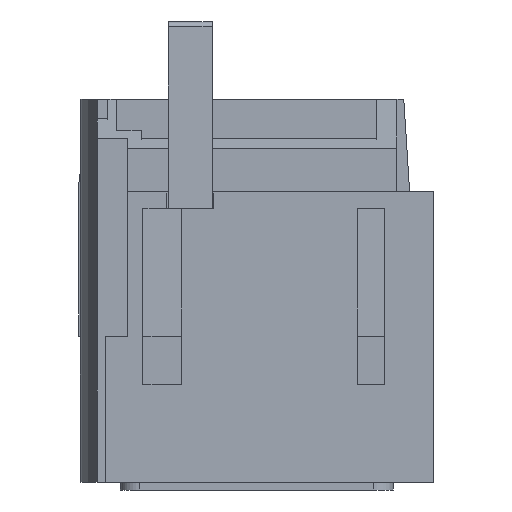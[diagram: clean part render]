
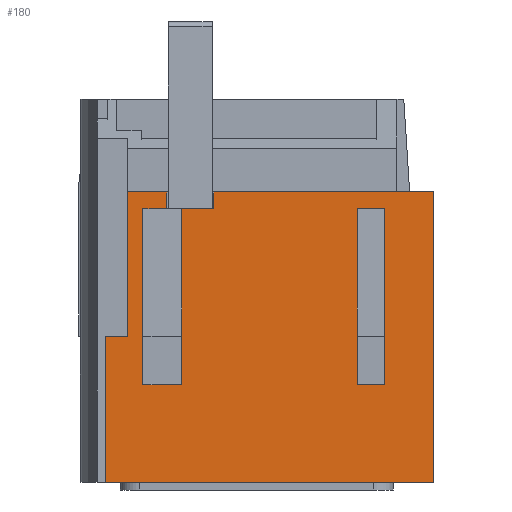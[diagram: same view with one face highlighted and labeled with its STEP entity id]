
A CAD part, front view. The second image highlights one B-rep face of the part: STEP entity #180.
In plain terms, the highlighted planar face has unit normal (0, -1, 0).
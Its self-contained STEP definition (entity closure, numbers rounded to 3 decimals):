
#84=FACE_BOUND('',#813,.T.);
#85=FACE_BOUND('',#814,.T.);
#180=ADVANCED_FACE('',(#84,#85),#405,.F.);
#405=PLANE('',#4402);
#813=EDGE_LOOP('',(#1315,#1316,#1317,#1318));
#814=EDGE_LOOP('',(#1319,#1320,#1321,#1322,#1323,#1324,#1325,#1326,#1327,
#1328,#1329,#1330,#1331,#1332));
#1315=ORIENTED_EDGE('',*,*,#2911,.F.);
#1316=ORIENTED_EDGE('',*,*,#2912,.T.);
#1317=ORIENTED_EDGE('',*,*,#2913,.F.);
#1318=ORIENTED_EDGE('',*,*,#2914,.F.);
#1319=ORIENTED_EDGE('',*,*,#2915,.F.);
#1320=ORIENTED_EDGE('',*,*,#2916,.F.);
#1321=ORIENTED_EDGE('',*,*,#2917,.F.);
#1322=ORIENTED_EDGE('',*,*,#2836,.T.);
#1323=ORIENTED_EDGE('',*,*,#2918,.T.);
#1324=ORIENTED_EDGE('',*,*,#2919,.T.);
#1325=ORIENTED_EDGE('',*,*,#2920,.T.);
#1326=ORIENTED_EDGE('',*,*,#2921,.F.);
#1327=ORIENTED_EDGE('',*,*,#2922,.F.);
#1328=ORIENTED_EDGE('',*,*,#2923,.F.);
#1329=ORIENTED_EDGE('',*,*,#2924,.F.);
#1330=ORIENTED_EDGE('',*,*,#2925,.T.);
#1331=ORIENTED_EDGE('',*,*,#2926,.T.);
#1332=ORIENTED_EDGE('',*,*,#2927,.F.);
#2418=VERTEX_POINT('',#5967);
#2422=VERTEX_POINT('',#5975);
#2471=VERTEX_POINT('',#6123);
#2472=VERTEX_POINT('',#6124);
#2473=VERTEX_POINT('',#6126);
#2474=VERTEX_POINT('',#6128);
#2475=VERTEX_POINT('',#6131);
#2476=VERTEX_POINT('',#6132);
#2477=VERTEX_POINT('',#6134);
#2478=VERTEX_POINT('',#6137);
#2479=VERTEX_POINT('',#6139);
#2480=VERTEX_POINT('',#6141);
#2481=VERTEX_POINT('',#6143);
#2482=VERTEX_POINT('',#6145);
#2483=VERTEX_POINT('',#6147);
#2484=VERTEX_POINT('',#6149);
#2485=VERTEX_POINT('',#6151);
#2486=VERTEX_POINT('',#6153);
#2836=EDGE_CURVE('',#2418,#2422,#3439,.T.);
#2911=EDGE_CURVE('',#2471,#2472,#3507,.T.);
#2912=EDGE_CURVE('',#2471,#2473,#3508,.T.);
#2913=EDGE_CURVE('',#2474,#2473,#3509,.T.);
#2914=EDGE_CURVE('',#2472,#2474,#3510,.T.);
#2915=EDGE_CURVE('',#2475,#2476,#3511,.T.);
#2916=EDGE_CURVE('',#2477,#2475,#3512,.T.);
#2917=EDGE_CURVE('',#2418,#2477,#3513,.T.);
#2918=EDGE_CURVE('',#2422,#2478,#3514,.T.);
#2919=EDGE_CURVE('',#2478,#2479,#3515,.T.);
#2920=EDGE_CURVE('',#2479,#2480,#3516,.T.);
#2921=EDGE_CURVE('',#2481,#2480,#3517,.T.);
#2922=EDGE_CURVE('',#2482,#2481,#3518,.T.);
#2923=EDGE_CURVE('',#2483,#2482,#3519,.T.);
#2924=EDGE_CURVE('',#2484,#2483,#3520,.T.);
#2925=EDGE_CURVE('',#2484,#2485,#3521,.T.);
#2926=EDGE_CURVE('',#2485,#2486,#3522,.T.);
#2927=EDGE_CURVE('',#2476,#2486,#3523,.T.);
#3439=LINE('',#5976,#3931);
#3507=LINE('',#6122,#3999);
#3508=LINE('',#6125,#4000);
#3509=LINE('',#6127,#4001);
#3510=LINE('',#6129,#4002);
#3511=LINE('',#6130,#4003);
#3512=LINE('',#6133,#4004);
#3513=LINE('',#6135,#4005);
#3514=LINE('',#6136,#4006);
#3515=LINE('',#6138,#4007);
#3516=LINE('',#6140,#4008);
#3517=LINE('',#6142,#4009);
#3518=LINE('',#6144,#4010);
#3519=LINE('',#6146,#4011);
#3520=LINE('',#6148,#4012);
#3521=LINE('',#6150,#4013);
#3522=LINE('',#6152,#4014);
#3523=LINE('',#6154,#4015);
#3931=VECTOR('',#4788,1.);
#3999=VECTOR('',#4916,1.);
#4000=VECTOR('',#4917,1.);
#4001=VECTOR('',#4918,1.);
#4002=VECTOR('',#4919,1.);
#4003=VECTOR('',#4920,1.);
#4004=VECTOR('',#4921,1.);
#4005=VECTOR('',#4922,1.);
#4006=VECTOR('',#4923,1.);
#4007=VECTOR('',#4924,1.);
#4008=VECTOR('',#4925,1.);
#4009=VECTOR('',#4926,1.);
#4010=VECTOR('',#4927,1.);
#4011=VECTOR('',#4928,1.);
#4012=VECTOR('',#4929,1.);
#4013=VECTOR('',#4930,1.);
#4014=VECTOR('',#4931,1.);
#4015=VECTOR('',#4932,1.);
#4402=AXIS2_PLACEMENT_3D('',#6155,#4933,#4934);
#4788=DIRECTION('',(0.,0.,-1.));
#4916=DIRECTION('',(0.,0.,-1.));
#4917=DIRECTION('',(1.,0.,0.));
#4918=DIRECTION('',(0.,0.,1.));
#4919=DIRECTION('',(1.,0.,0.));
#4920=DIRECTION('',(-1.,0.,0.));
#4921=DIRECTION('',(0.,0.,-1.));
#4922=DIRECTION('',(1.,0.,0.));
#4923=DIRECTION('',(-1.,0.,0.));
#4924=DIRECTION('',(0.,0.,-1.));
#4925=DIRECTION('',(1.,0.,0.));
#4926=DIRECTION('',(0.,0.,-1.));
#4927=DIRECTION('',(1.,0.,0.));
#4928=DIRECTION('',(0.,0.,1.));
#4929=DIRECTION('',(1.,0.,0.));
#4930=DIRECTION('',(0.,0.,-1.));
#4931=DIRECTION('',(-1.,0.,0.));
#4932=DIRECTION('',(0.,0.,-1.));
#4933=DIRECTION('',(0.,1.,0.));
#4934=DIRECTION('',(0.,0.,1.));
#5967=CARTESIAN_POINT('',(115.877,-67.41,0.));
#5975=CARTESIAN_POINT('',(115.877,-67.41,-14.8));
#5976=CARTESIAN_POINT('',(115.877,-67.41,0.));
#6122=CARTESIAN_POINT('',(139.427,-67.41,0.));
#6123=CARTESIAN_POINT('',(139.427,-67.41,-1.7));
#6124=CARTESIAN_POINT('',(139.427,-67.41,-19.8));
#6125=CARTESIAN_POINT('',(115.877,-67.41,-1.7));
#6126=CARTESIAN_POINT('',(142.227,-67.41,-1.7));
#6127=CARTESIAN_POINT('',(142.227,-67.41,0.));
#6128=CARTESIAN_POINT('',(142.227,-67.41,-19.8));
#6129=CARTESIAN_POINT('',(115.877,-67.41,-19.8));
#6130=CARTESIAN_POINT('',(124.227,-67.41,-1.7));
#6131=CARTESIAN_POINT('',(119.877,-67.41,-1.7));
#6132=CARTESIAN_POINT('',(117.427,-67.41,-1.7));
#6133=CARTESIAN_POINT('',(119.877,-67.41,0.));
#6134=CARTESIAN_POINT('',(119.877,-67.41,0.));
#6135=CARTESIAN_POINT('',(113.577,-67.41,0.));
#6136=CARTESIAN_POINT('',(115.877,-67.41,-14.8));
#6137=CARTESIAN_POINT('',(113.577,-67.41,-14.8));
#6138=CARTESIAN_POINT('',(113.577,-67.41,0.));
#6139=CARTESIAN_POINT('',(113.577,-67.41,-29.8));
#6140=CARTESIAN_POINT('',(115.877,-67.41,-29.8));
#6141=CARTESIAN_POINT('',(147.227,-67.41,-29.8));
#6142=CARTESIAN_POINT('',(147.227,-67.41,0.));
#6143=CARTESIAN_POINT('',(147.227,-67.41,0.));
#6144=CARTESIAN_POINT('',(113.577,-67.41,0.));
#6145=CARTESIAN_POINT('',(124.727,-67.41,0.));
#6146=CARTESIAN_POINT('',(124.727,-67.41,0.));
#6147=CARTESIAN_POINT('',(124.727,-67.41,-1.7));
#6148=CARTESIAN_POINT('',(115.877,-67.41,-1.7));
#6149=CARTESIAN_POINT('',(121.427,-67.41,-1.7));
#6150=CARTESIAN_POINT('',(121.427,-67.41,0.));
#6151=CARTESIAN_POINT('',(121.427,-67.41,-19.8));
#6152=CARTESIAN_POINT('',(121.427,-67.41,-19.8));
#6153=CARTESIAN_POINT('',(117.427,-67.41,-19.8));
#6154=CARTESIAN_POINT('',(117.427,-67.41,0.));
#6155=CARTESIAN_POINT('',(115.877,-67.41,0.));
